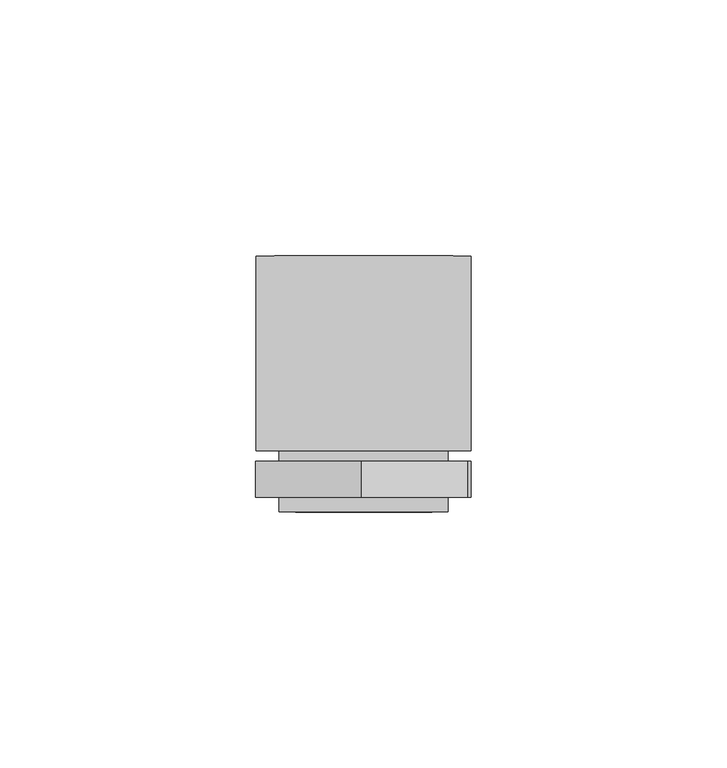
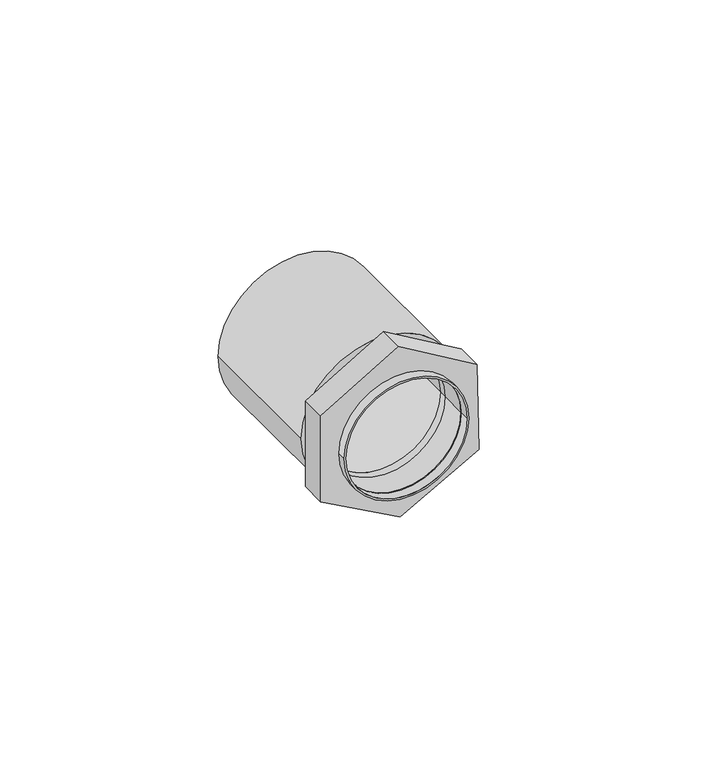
"""IFC4 building model written with IfcOpenShell, lengths in millimetres: cable carrier fitting geometry, Муфта_вводная_для_гофротрубы : Муфта вводная для гофротрубы 32мм."""

from ifc_helpers import new_model, si_unit, point, frame, frame_2d, origin, place, context, project, spatial, polyline, circle_curve, trimmed, segment, composite_curve, outline, extrude, source, transform, mapped, element, save


def cable_carrier_fitting_fd7b985e(model_context):
    return source(origin(), model_context, "Body", "SweptSolid", [
        extrude(outline(polyline([(-12.0771157, 21.0), (11.9139968, 20.3469143), (24.1089345, -0.3239225), (11.9228843, -21.0), (-12.0771157, -21.0), (-23.6960658, 0.0), (-12.0771157, 21.0)]), holes=[composite_curve([segment(trimmed(circle_curve(frame_2d((0.0057257, 0.0905136)), 16.0), [point((0.0057257, 16.0905136))], [point((0.0057257, -15.9094864))], True, "CARTESIAN"), True, "CONTINUOUS"), segment(trimmed(circle_curve(frame_2d((0.0057257, 0.0905136)), 16.0), [point((0.0057257, -15.9094864))], [point((0.0057257, 16.0905136))], True, "CARTESIAN"), True, "CONTINUOUS")], self_intersect=False)]), frame((0.0, -47.1018563, 0.0), z_axis=(0.0, 1.0, 0.0), x_axis=(0.0, 0.0, 1.0)), (0.0, 0.0, 1.0), 7.0),
        extrude(outline(composite_curve([segment(trimmed(circle_curve(frame_2d((0.0032191, 0.0900025)), 16.5), [point((0.0032191, -16.4099975))], [point((0.0032191, 16.5900025))], False, "CARTESIAN"), True, "CONTINUOUS"), segment(trimmed(circle_curve(frame_2d((0.0032191, 0.0900025)), 16.5), [point((0.0032191, 16.5900025))], [point((0.0032191, -16.4099975))], False, "CARTESIAN"), True, "CONTINUOUS")], self_intersect=False), holes=[composite_curve([segment(trimmed(circle_curve(frame_2d((0.0057257, 0.0905136)), 16.0), [point((0.0057257, 16.0905136))], [point((0.0057257, -15.9094864))], True, "CARTESIAN"), True, "CONTINUOUS"), segment(trimmed(circle_curve(frame_2d((0.0057257, 0.0905136)), 16.0), [point((0.0057257, -15.9094864))], [point((0.0057257, 16.0905136))], True, "CARTESIAN"), True, "CONTINUOUS")], self_intersect=False)]), frame((0.0, -50.0, 0.0), z_axis=(0.0, 1.0, 0.0), x_axis=(0.0, 0.0, 1.0)), (0.0, 0.0, 1.0), 12.0),
        extrude(outline(composite_curve([segment(trimmed(circle_curve(frame_2d((0.0, 0.0905136)), 21.0), [point((0.0, -20.9094864))], [point((0.0, 21.0905136))], False, "CARTESIAN"), True, "CONTINUOUS"), segment(trimmed(circle_curve(frame_2d((0.0, 0.0905136)), 21.0), [point((0.0, 21.0905136))], [point((0.0, -20.9094864))], False, "CARTESIAN"), True, "CONTINUOUS")], self_intersect=False), holes=[composite_curve([segment(trimmed(circle_curve(frame_2d((0.0057257, 0.0905136)), 16.0), [point((0.0057257, 16.0905136))], [point((0.0057257, -15.9094864))], True, "CARTESIAN"), True, "CONTINUOUS"), segment(trimmed(circle_curve(frame_2d((0.0057257, 0.0905136)), 16.0), [point((0.0057257, -15.9094864))], [point((0.0057257, 16.0905136))], True, "CARTESIAN"), True, "CONTINUOUS")], self_intersect=False)]), frame((0.0, -38.0, 0.0), z_axis=(0.0, 1.0, 0.0), x_axis=(0.0, 0.0, 1.0)), (0.0, 0.0, 1.0), 38.0),
    ])


if __name__ == "__main__":
    model = new_model("IFC4")
    model_context = context("Model", 3, world=origin())
    ifc_project = project(units=[si_unit("LENGTHUNIT", "METRE", prefix="MILLI")], contexts=[model_context])
    site = spatial("IfcSite", under=ifc_project)
    building = spatial("IfcBuilding", under=site)
    placement = place(None, origin())
    cable_carrier_fitting_shape = cable_carrier_fitting_fd7b985e(model_context)
    element("IfcCableCarrierFitting", 1, ObjectType="Муфта_вводная_для_гофротрубы : Муфта вводная для гофротрубы 32мм", at=placement, inside=building, context=model_context, shape_type="MappedRepresentation", body=[
        mapped(cable_carrier_fitting_shape, transform((0.0, 0.0, 0.0), x_axis=(1.0, 0.0, 0.0), y_axis=(0.0, 1.0, 0.0), z_axis=(0.0, 0.0, 1.0))),
    ])
    save(model, "model.ifc")
